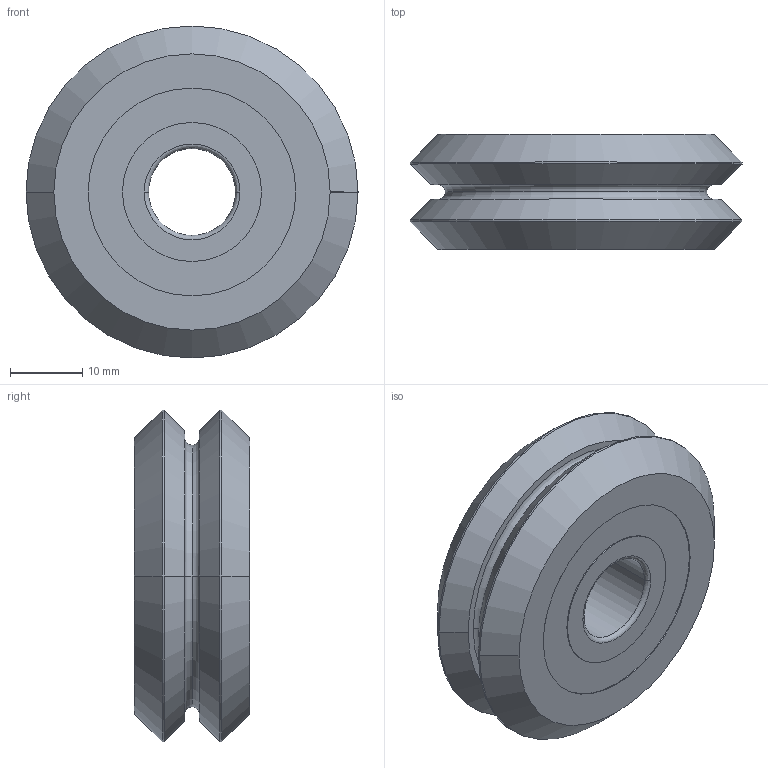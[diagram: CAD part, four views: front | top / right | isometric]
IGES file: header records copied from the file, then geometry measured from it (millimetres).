
Start section: 3D InterOp IGES (v. 2019 1.0.2), Spatial Corp. Copyright (c) 1999-2017.
Global section: file name: W3SSX.igs; native system: Spatial Corp.; preprocessor: 3D InterOp GENERIC/IGES 3.0; author: Noname; organization: Noname; date: 20200930.105806; units: millimetre
Bounding box: 45.8 x 15.88 x 45.8 mm (x, y, z)
Surface area: 5828.9 mm2 (no closed solid volume)
Topology: 0 solids, 0 shells, 38 faces, 152 edges, 152 vertices
Faces by surface type: revolution 30, extrusion 8
